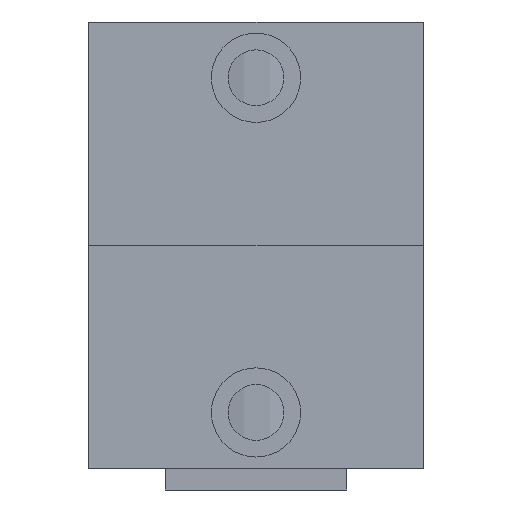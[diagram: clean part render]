
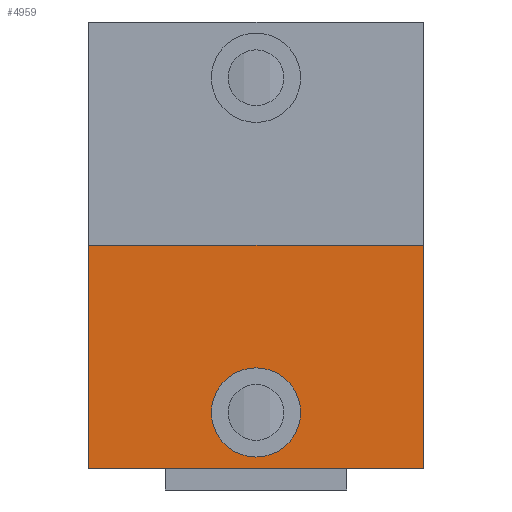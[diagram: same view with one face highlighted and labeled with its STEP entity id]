
A CAD part, left-side view. The second image highlights one B-rep face of the part: STEP entity #4959.
In plain terms, the highlighted planar face has unit normal (-1, 0, 0).
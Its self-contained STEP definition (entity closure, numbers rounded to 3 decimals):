
#1038=FACE_BOUND('',#11797,.T.);
#1039=FACE_BOUND('',#11798,.T.);
#4959=ADVANCED_FACE('',(#1038,#1039),#7799,.F.);
#7799=PLANE('',#55896);
#11797=EDGE_LOOP('',(#18278));
#11798=EDGE_LOOP('',(#18279,#18280,#18281,#18282));
#14988=CIRCLE('',#55807,4.);
#18278=ORIENTED_EDGE('',*,*,#39342,.F.);
#18279=ORIENTED_EDGE('',*,*,#39501,.F.);
#18280=ORIENTED_EDGE('',*,*,#39495,.F.);
#18281=ORIENTED_EDGE('',*,*,#39503,.T.);
#18282=ORIENTED_EDGE('',*,*,#39124,.T.);
#33607=VERTEX_POINT('',#75402);
#33609=VERTEX_POINT('',#75406);
#33772=VERTEX_POINT('',#76032);
#33867=VERTEX_POINT('',#76349);
#33868=VERTEX_POINT('',#76350);
#39124=EDGE_CURVE('',#33607,#33609,#47129,.T.);
#39342=EDGE_CURVE('',#33772,#33772,#14988,.T.);
#39495=EDGE_CURVE('',#33867,#33868,#47389,.T.);
#39501=EDGE_CURVE('',#33868,#33609,#47395,.T.);
#39503=EDGE_CURVE('',#33867,#33607,#47397,.T.);
#47129=LINE('',#75407,#51209);
#47389=LINE('',#76348,#51469);
#47395=LINE('',#76359,#51475);
#47397=LINE('',#76363,#51477);
#51209=VECTOR('',#60824,1.);
#51469=VECTOR('',#61548,1.);
#51475=VECTOR('',#61556,1.);
#51477=VECTOR('',#61562,1.);
#55807=AXIS2_PLACEMENT_3D('',#76031,#61253,#61254);
#55896=AXIS2_PLACEMENT_3D('',#76365,#61565,#61566);
#60824=DIRECTION('',(0.,-1.,0.));
#61253=DIRECTION('',(-1.,0.,0.));
#61254=DIRECTION('',(0.,0.,1.));
#61548=DIRECTION('',(0.,-1.,0.));
#61556=DIRECTION('',(0.,0.,-1.));
#61562=DIRECTION('',(0.,0.,-1.));
#61565=DIRECTION('',(1.,0.,0.));
#61566=DIRECTION('',(0.,0.,1.));
#75402=CARTESIAN_POINT('',(-52.52,20.091,61.039));
#75406=CARTESIAN_POINT('',(-52.52,-9.909,61.039));
#75407=CARTESIAN_POINT('',(-52.52,20.091,61.039));
#76031=CARTESIAN_POINT('',(-52.52,5.091,66.039));
#76032=CARTESIAN_POINT('',(-52.52,5.091,70.039));
#76348=CARTESIAN_POINT('',(-52.52,20.091,81.039));
#76349=CARTESIAN_POINT('',(-52.52,20.091,81.039));
#76350=CARTESIAN_POINT('',(-52.52,-9.909,81.039));
#76359=CARTESIAN_POINT('',(-52.52,-9.909,81.039));
#76363=CARTESIAN_POINT('',(-52.52,20.091,81.039));
#76365=CARTESIAN_POINT('',(-52.52,20.091,79.039));
